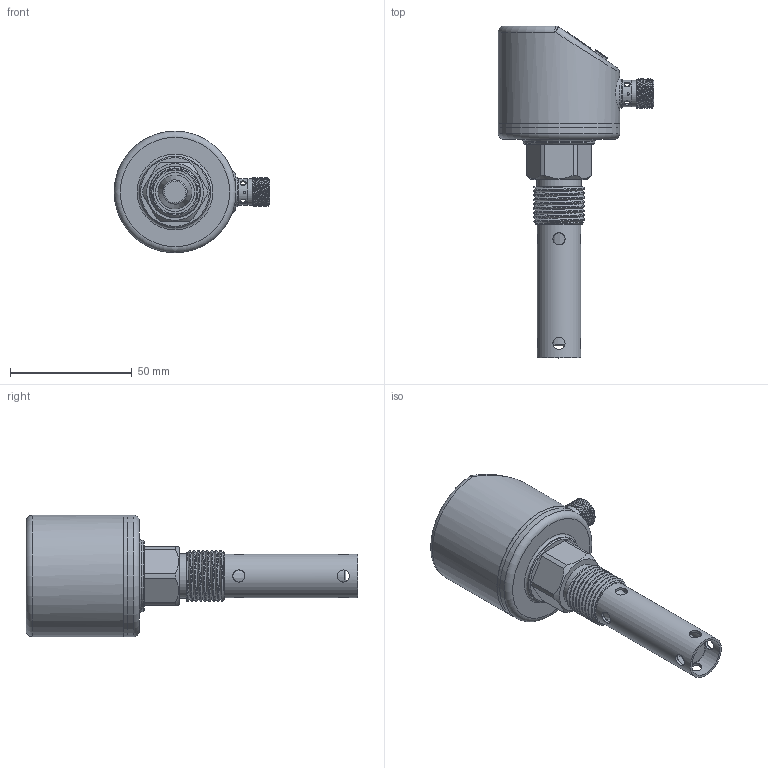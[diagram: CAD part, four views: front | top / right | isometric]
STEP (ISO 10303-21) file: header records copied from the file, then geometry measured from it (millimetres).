
FILE_DESCRIPTION (( 'STEP AP214' ), '1' );
FILE_NAME ('1-2数显电容-50（同轴）.STEP', '2025-03-11T05:42:49', ( '' ), ( '' ), 'SwSTEP 2.0', 'SolidWorks 2020', '' );
FILE_SCHEMA (( 'AUTOMOTIVE_DESIGN' ));
Length unit declared in the file: millimetre
Products named in the file (9): 恦謫抻芛5; 偌瑩簽; 揤薯奻裔; PVC躇猾菜; 揤薯珆尨欶; 滅阨諉芛褲极1; 抻芛ㄗ蟀哿講ㄘ; 1-2数显电容-50（同轴）; 肮粣奪
Assembly tree (10 placements, depth 2):
  1-2数显电容-50（同轴）
    揤薯奻裔
    揤薯珆尨欶
    滅阨諉芛褲极1
    偌瑩簽  x3
    PVC躇猾菜
    恦謫抻芛5
    抻芛ㄗ蟀哿講ㄘ
    肮粣奪
Bounding box: 64 x 136.5 x 50 mm (x, y, z)
Volume: 33094.7 mm3; surface area: 39437 mm2
Topology: 10 solids, 10 shells, 306 faces, 720 edges, 466 vertices
Faces by surface type: plane 126, cylinder 115, cone 39, bspline 11, torus 11, sphere 4
Full cylindrical faces by diameter (mm): 1 x4, 1.2 x3, 1.8 x1, 2 x3, 2.5 x4, 2.8 x1, 4.3 x3, 4.5 x6, 5 x8, 6 x1, 7.2 x1, 8 x1, 8.5 x1, 9.75 x1, 10 x1, 10.49 x1, 10.5 x1, 10.8 x1, 10.9 x1, 11 x2, 12 x1, 16 x1, 18 x1, 18.5 x1, 21 x1, 29.24 x1, 35 x1, 43.9 x1, 45.4 x1, 45.6 x2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
Entity records: 13745 total; most frequent: CARTESIAN_POINT 7166, DIRECTION 1284, ORIENTED_EDGE 1072, EDGE_CURVE 536, AXIS2_PLACEMENT_3D 523, EDGE_LOOP 458, VERTEX_POINT 398, FACE_OUTER_BOUND 344
